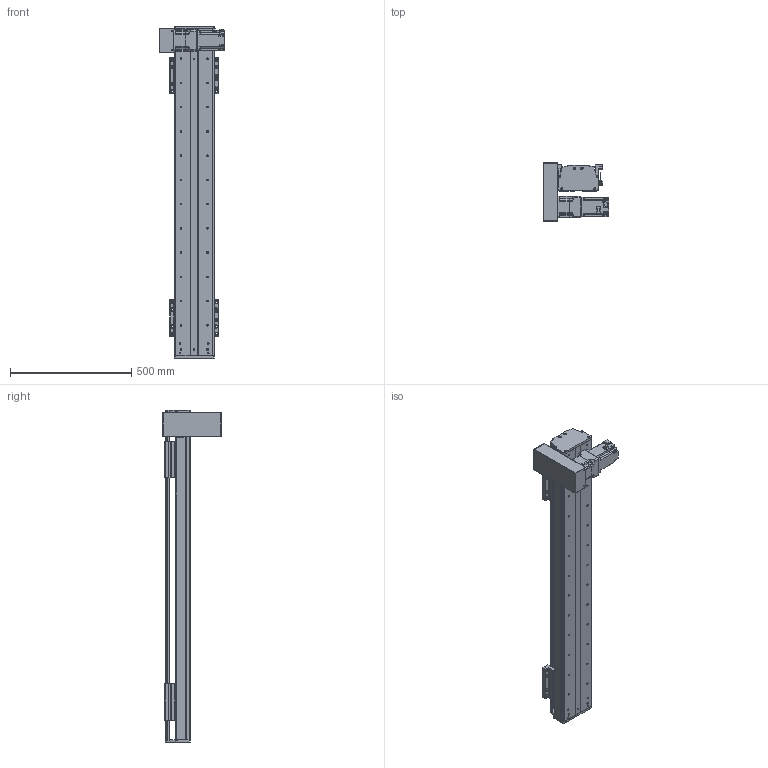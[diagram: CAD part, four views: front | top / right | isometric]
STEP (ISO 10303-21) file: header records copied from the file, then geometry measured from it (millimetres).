
FILE_DESCRIPTION(/* description */ (''),/* implementation_level */ '2;1');
FILE_NAME(/* name */ 'C:\Users\PC\Desktop\3D도면\STEP\DSB165-DL7G-W1000-R.stp',/* time_stamp */ '2018-06-25T15:37:04+09:00',/* author */ ('PC'),/* organization */ (''),/* preprocessor_version */ 'ST-DEVELOPER v16.5',/* originating_system */ 'Autodesk Inventor 2017',/* authorisation */ '');
FILE_SCHEMA (('AUTOMOTIVE_DESIGN { 1 0 10303 214 3 1 1 }'));
Length unit declared in the file: millimetre
Products named in the file (12): DSB165-L; DSR165-BASE_S; hg-kr73_; ab0901-p0401300102; 11-DBS165 BELT COVER; DBS165-COVER; DBS165-COVER_1; DBS165-UP COVER; DBS165-TABLE(MSA20S); DSR126-SENSOR DOG; SENSOR BRACKET(EE-SX674A); pm-y65_step
Assembly tree (16 placements, depth 2):
  DSB165-L
    DSR165-BASE_S
    hg-kr73_
    ab0901-p0401300102
    11-DBS165 BELT COVER
    DBS165-COVER
    DBS165-COVER_1
    DBS165-UP COVER
    DBS165-TABLE(MSA20S)  x2
    DSR126-SENSOR DOG
    pm-y65_step  x3
    SENSOR BRACKET(EE-SX674A)  x3
Bounding box: 270 x 242 x 1370 mm (x, y, z)
Volume: 8868122.5 mm3; surface area: 2054312.3 mm2
Topology: 17 solids, 22 shells, 1675 faces, 4495 edges, 2964 vertices
Faces by surface type: plane 926, cylinder 623, cone 114, sphere 8, torus 4
Full cylindrical faces by diameter (mm): 2.459 x20, 3.5 x6, 4.134 x42, 4.5 x18, 5 x27, 5.5 x36, 5.9 x4, 6 x8, 6.6 x14, 6.647 x42, 6.8 x1, 7 x4, 7.6 x4, 8 x1, 8.4 x1, 8.5 x24, 8.7 x1, 9.5 x32, 11 x6, 14 x16, 19 x1, 22 x1, 24 x1, 25 x1, 28 x1, 67 x1, 70 x2, 80 x1
Entity records: 35629 total; most frequent: DIRECTION 6300, CARTESIAN_POINT 6103, ORIENTED_EDGE 5550, EDGE_CURVE 2780, AXIS2_PLACEMENT_3D 2320, VERTEX_POINT 1985, EDGE_LOOP 1747, LINE 1660
